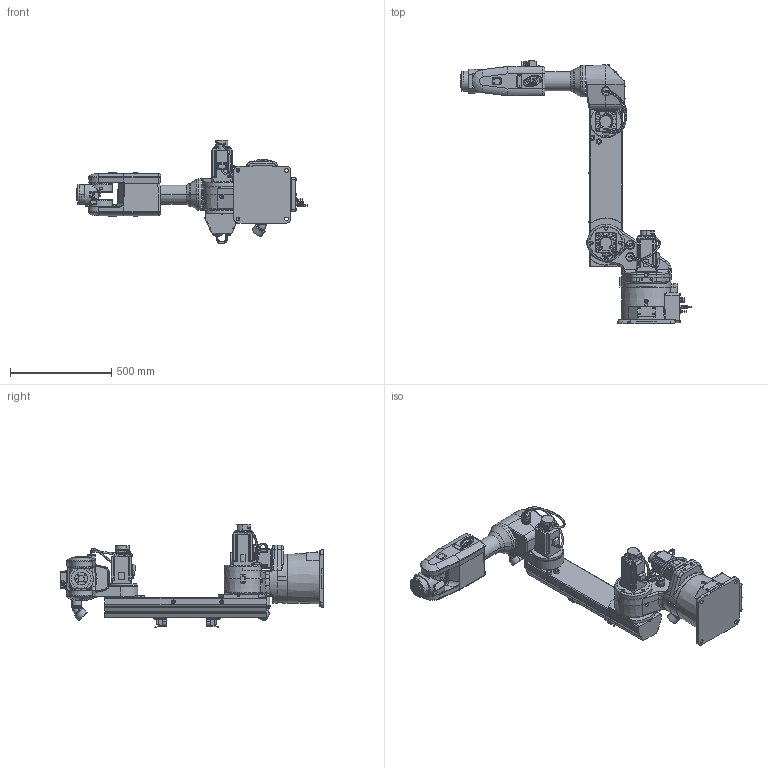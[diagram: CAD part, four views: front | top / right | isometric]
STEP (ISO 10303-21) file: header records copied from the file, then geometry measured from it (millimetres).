
FILE_DESCRIPTION((''),'2;1');
FILE_NAME('ASM0032_ASM','2022-03-16T16:08:47',('15335'),(''),'CREO PARAMETRIC BY PTC INC, 2020454','CREO PARAMETRIC BY PTC INC, 2020454','');
FILE_SCHEMA(('AUTOMOTIVE_DESIGN { 1 0 10303 214 1 1 1 1 }'));
Products named in the file (8): MSBR-7; MSBR-6; MSBR-5; MSBR-4; MSBR-3; MSBR-2; MSBR-1; ASM0032_ASM
Assembly tree (7 placements, depth 2):
  ASM0032_ASM
    MSBR-7
    MSBR-6
    MSBR-5
    MSBR-4
    MSBR-3
    MSBR-2
    MSBR-1
Bounding box: 1144.1 x 1302.8 x 511.14 mm (x, y, z)
Volume: 49694076.2 mm3; surface area: 2690422.7 mm2
Topology: 7 solids, 73 shells, 3788 faces, 9516 edges, 6025 vertices
Faces by surface type: plane 1689, cylinder 1238, bspline 297, cone 248, torus 145, extrusion 84, sphere 46, revolution 41
Entity records: 157242 total; most frequent: CARTESIAN_POINT 46910, ORIENTED_EDGE 18840, DIRECTION 17949, EDGE_CURVE 9420, AXIS2_PLACEMENT_3D 6594, VERTEX_POINT 6025, VECTOR 4720, LINE 4636
